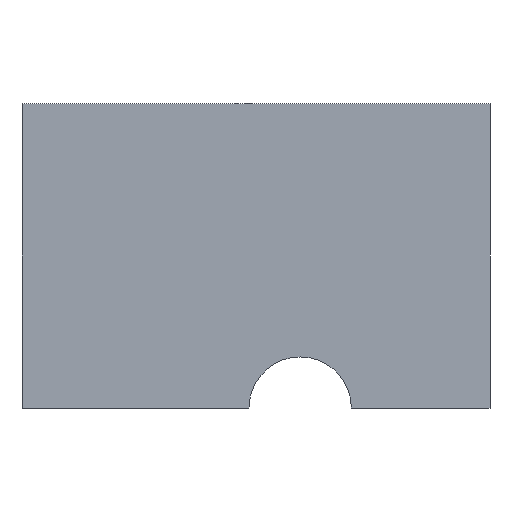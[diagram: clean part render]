
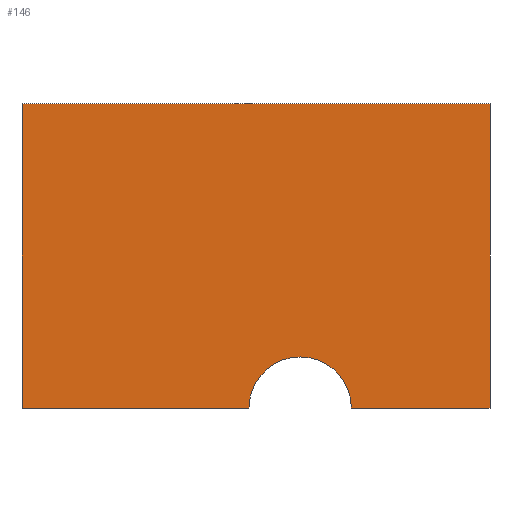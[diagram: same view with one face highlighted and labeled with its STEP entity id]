
A CAD part, front view. The second image highlights one B-rep face of the part: STEP entity #146.
In plain terms, the highlighted planar face has unit normal (0, -1, 0).
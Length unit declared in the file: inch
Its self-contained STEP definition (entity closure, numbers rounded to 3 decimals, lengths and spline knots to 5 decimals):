
#15=CIRCLE('',#151,0.0875);
#25=FACE_OUTER_BOUND('',#33,.T.);
#33=EDGE_LOOP('',(#126,#127,#128,#129,#130,#131));
#34=LINE('',#201,#50);
#39=LINE('',#215,#55);
#42=LINE('',#221,#58);
#45=LINE('',#227,#61);
#48=LINE('',#232,#64);
#50=VECTOR('',#163,0.3937);
#55=VECTOR('',#176,0.3937);
#58=VECTOR('',#181,0.3937);
#61=VECTOR('',#186,0.3937);
#64=VECTOR('',#191,0.3937);
#66=VERTEX_POINT('',#199);
#67=VERTEX_POINT('',#200);
#70=VERTEX_POINT('',#208);
#72=VERTEX_POINT('',#214);
#74=VERTEX_POINT('',#220);
#76=VERTEX_POINT('',#226);
#78=EDGE_CURVE('',#66,#67,#34,.T.);
#82=EDGE_CURVE('',#66,#70,#15,.T.);
#85=EDGE_CURVE('',#72,#70,#39,.T.);
#88=EDGE_CURVE('',#74,#72,#42,.T.);
#91=EDGE_CURVE('',#76,#74,#45,.T.);
#94=EDGE_CURVE('',#67,#76,#48,.T.);
#126=ORIENTED_EDGE('',*,*,#94,.F.);
#127=ORIENTED_EDGE('',*,*,#78,.F.);
#128=ORIENTED_EDGE('',*,*,#82,.T.);
#129=ORIENTED_EDGE('',*,*,#85,.F.);
#130=ORIENTED_EDGE('',*,*,#88,.F.);
#131=ORIENTED_EDGE('',*,*,#91,.F.);
#138=PLANE('',#158);
#146=ADVANCED_FACE('',(#25),#138,.F.);
#151=AXIS2_PLACEMENT_3D('',#209,#169,#170);
#158=AXIS2_PLACEMENT_3D('',#235,#195,#196);
#163=DIRECTION('',(-1.,0.,0.));
#169=DIRECTION('center_axis',(0.,1.,0.));
#170=DIRECTION('ref_axis',(-1.,0.,0.));
#176=DIRECTION('',(-1.,0.,0.));
#181=DIRECTION('',(0.,0.,-1.));
#186=DIRECTION('',(1.,0.,0.));
#191=DIRECTION('',(0.,0.,1.));
#195=DIRECTION('center_axis',(0.,1.,0.));
#196=DIRECTION('ref_axis',(1.,0.,0.));
#199=CARTESIAN_POINT('',(-0.012,0.,-0.26));
#200=CARTESIAN_POINT('',(-0.4,0.,-0.26));
#201=CARTESIAN_POINT('',(0.4,0.,-0.26));
#208=CARTESIAN_POINT('',(0.163,0.,-0.26));
#209=CARTESIAN_POINT('Origin',(0.0755,0.,-0.26));
#214=CARTESIAN_POINT('',(0.4,0.,-0.26));
#215=CARTESIAN_POINT('',(0.4,0.,-0.26));
#220=CARTESIAN_POINT('',(0.4,0.,0.26));
#221=CARTESIAN_POINT('',(0.4,0.,0.26));
#226=CARTESIAN_POINT('',(-0.4,0.,0.26));
#227=CARTESIAN_POINT('',(-0.4,0.,0.26));
#232=CARTESIAN_POINT('',(-0.4,0.,-0.26));
#235=CARTESIAN_POINT('Origin',(0.,0.,0.));
